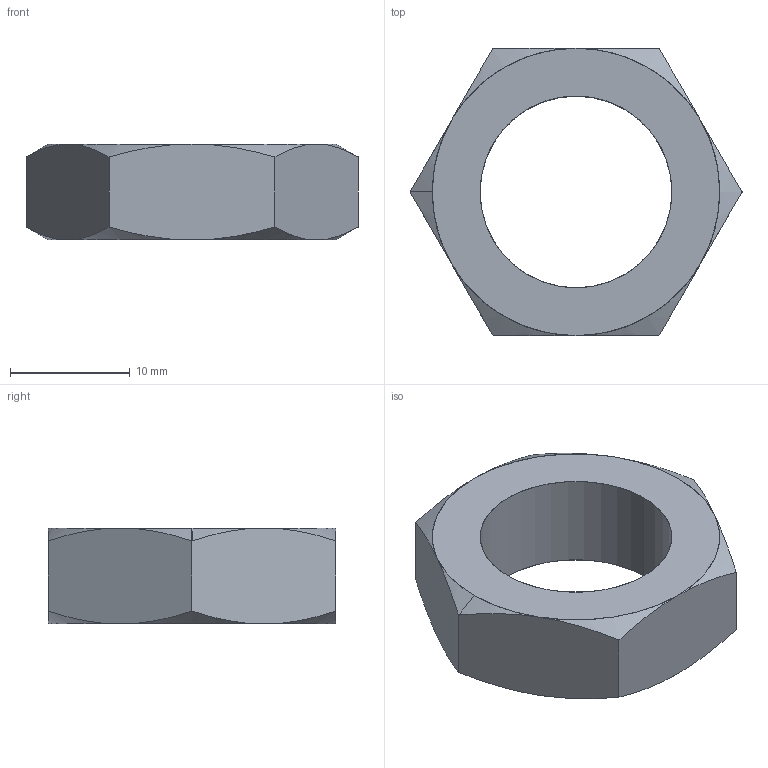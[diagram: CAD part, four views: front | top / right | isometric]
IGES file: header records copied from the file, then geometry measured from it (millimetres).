
Start section: SolidWorks IGES file using analytic representation for surfaces
Global section: file name: C:\Documents and Settings\IANO\My Documents\Wix and Auto CAD Work\CAD Models\Parametric Models\Wix Models\30000\32500_v2\32700_NUT_20160309_IGES\32700.W0118.igs; native system: SolidWorks 2009; preprocessor: SolidWorks 2009; author: IANO; date: 160630.174450; units: millimetre
Bounding box: 27.71 x 24 x 8 mm (x, y, z)
Surface area: 1616 mm2 (no closed solid volume)
Topology: 0 solids, 0 shells, 24 faces, 390 edges, 390 vertices
Faces by surface type: revolution 16, bspline 8
